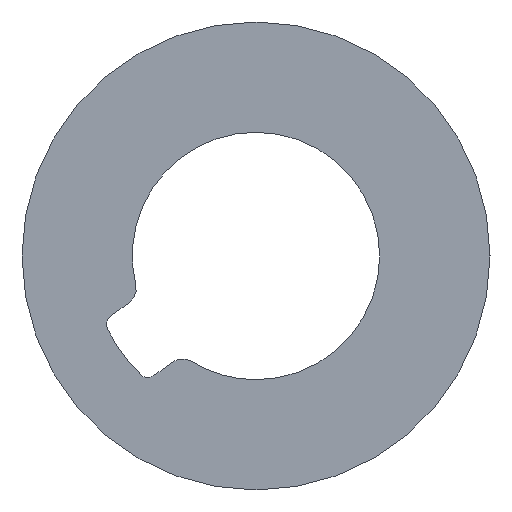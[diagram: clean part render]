
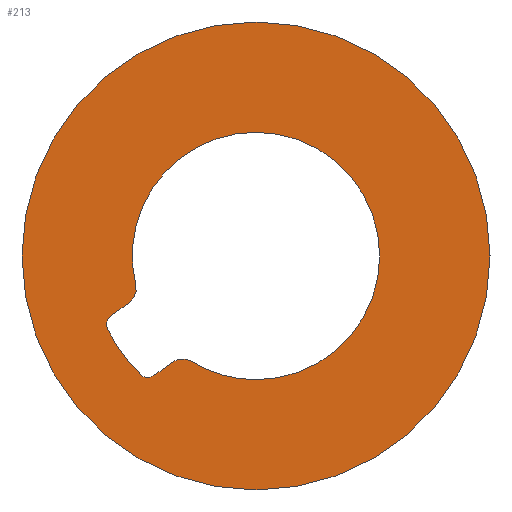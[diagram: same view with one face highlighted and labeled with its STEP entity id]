
A CAD part, left-side view. The second image highlights one B-rep face of the part: STEP entity #213.
In plain terms, the highlighted planar face has unit normal (-1, 0, 0).
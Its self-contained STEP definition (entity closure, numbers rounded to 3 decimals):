
#3 = ORIENTED_EDGE ( 'NONE', *, *, #289, .T. ) ;
#6 = ORIENTED_EDGE ( 'NONE', *, *, #268, .F. ) ;
#7 = ORIENTED_EDGE ( 'NONE', *, *, #288, .F. ) ;
#8 = ORIENTED_EDGE ( 'NONE', *, *, #272, .T. ) ;
#9 = ORIENTED_EDGE ( 'NONE', *, *, #275, .T. ) ;
#10 = ORIENTED_EDGE ( 'NONE', *, *, #261, .T. ) ;
#11 = ORIENTED_EDGE ( 'NONE', *, *, #279, .T. ) ;
#12 = ORIENTED_EDGE ( 'NONE', *, *, #291, .T. ) ;
#13 = ORIENTED_EDGE ( 'NONE', *, *, #290, .T. ) ;
#19 = ORIENTED_EDGE ( 'NONE', *, *, #262, .T. ) ;
#20 = ORIENTED_EDGE ( 'NONE', *, *, #293, .T. ) ;
#21 = ORIENTED_EDGE ( 'NONE', *, *, #292, .T. ) ;
#24 = ORIENTED_EDGE ( 'NONE', *, *, #294, .T. ) ;
#37 = CIRCLE ( 'NONE', #222, 0.3 ) ;
#39 = CIRCLE ( 'NONE', #223, 4.95 ) ;
#40 = CIRCLE ( 'NONE', #227, 0.3 ) ;
#45 = VECTOR ( 'NONE', #476, 1000. ) ;
#46 = CIRCLE ( 'NONE', #231, 0.5 ) ;
#47 = LINE ( 'NONE', #483, #45 ) ;
#49 = VECTOR ( 'NONE', #477, 1000. ) ;
#50 = CIRCLE ( 'NONE', #224, 7. ) ;
#51 = LINE ( 'NONE', #521, #49 ) ;
#69 = CIRCLE ( 'NONE', #233, 3.7 ) ;
#74 = CIRCLE ( 'NONE', #235, 3.7 ) ;
#80 = CIRCLE ( 'NONE', #237, 3.7 ) ;
#88 = CIRCLE ( 'NONE', #239, 7. ) ;
#100 = CIRCLE ( 'NONE', #242, 0.3 ) ;
#103 = CIRCLE ( 'NONE', #243, 0.5 ) ;
#118 = FACE_BOUND ( 'NONE', #146, .T. ) ;
#119 = FACE_OUTER_BOUND ( 'NONE', #147, .T. ) ;
#146 = EDGE_LOOP ( 'NONE', ( #3, #10, #9, #8, #11, #13, #12, #21, #19, #20, #24 ) ) ;
#147 = EDGE_LOOP ( 'NONE', ( #7, #6 ) ) ;
#213 = ADVANCED_FACE ( 'NONE', ( #119, #118 ), #394, .F. ) ;
#222 = AXIS2_PLACEMENT_3D ( 'NONE', #523, #452, #453 ) ;
#223 = AXIS2_PLACEMENT_3D ( 'NONE', #516, #517, #522 ) ;
#224 = AXIS2_PLACEMENT_3D ( 'NONE', #518, #507, #519 ) ;
#227 = AXIS2_PLACEMENT_3D ( 'NONE', #488, #489, #515 ) ;
#231 = AXIS2_PLACEMENT_3D ( 'NONE', #520, #474, #467 ) ;
#233 = AXIS2_PLACEMENT_3D ( 'NONE', #317, #316, #315 ) ;
#235 = AXIS2_PLACEMENT_3D ( 'NONE', #332, #331, #330 ) ;
#237 = AXIS2_PLACEMENT_3D ( 'NONE', #342, #341, #340 ) ;
#239 = AXIS2_PLACEMENT_3D ( 'NONE', #354, #353, #352 ) ;
#242 = AXIS2_PLACEMENT_3D ( 'NONE', #372, #370, #368 ) ;
#243 = AXIS2_PLACEMENT_3D ( 'NONE', #378, #376, #374 ) ;
#246 = AXIS2_PLACEMENT_3D ( 'NONE', #392, #391, #390 ) ;
#261 = EDGE_CURVE ( 'NONE', #449, #311, #103, .T. ) ;
#262 = EDGE_CURVE ( 'NONE', #393, #362, #100, .T. ) ;
#268 = EDGE_CURVE ( 'NONE', #448, #447, #88, .T. ) ;
#272 = EDGE_CURVE ( 'NONE', #375, #351, #80, .T. ) ;
#275 = EDGE_CURVE ( 'NONE', #311, #375, #74, .T. ) ;
#279 = EDGE_CURVE ( 'NONE', #351, #371, #69, .T. ) ;
#288 = EDGE_CURVE ( 'NONE', #447, #448, #50, .T. ) ;
#289 = EDGE_CURVE ( 'NONE', #441, #449, #51, .T. ) ;
#290 = EDGE_CURVE ( 'NONE', #371, #369, #46, .T. ) ;
#291 = EDGE_CURVE ( 'NONE', #369, #444, #47, .T. ) ;
#292 = EDGE_CURVE ( 'NONE', #444, #393, #40, .T. ) ;
#293 = EDGE_CURVE ( 'NONE', #362, #300, #39, .T. ) ;
#294 = EDGE_CURVE ( 'NONE', #300, #441, #37, .T. ) ;
#300 = VERTEX_POINT ( 'NONE', #509 ) ;
#311 = VERTEX_POINT ( 'NONE', #508 ) ;
#315 = DIRECTION ( 'NONE',  ( 0., 0., -1. ) ) ;
#316 = DIRECTION ( 'NONE',  ( 1., 0., 0. ) ) ;
#317 = CARTESIAN_POINT ( 'NONE',  ( -335.5, 0., 0. ) ) ;
#330 = DIRECTION ( 'NONE',  ( 0., 0., -1. ) ) ;
#331 = DIRECTION ( 'NONE',  ( 1., 0., 0. ) ) ;
#332 = CARTESIAN_POINT ( 'NONE',  ( -335.5, 0., 0. ) ) ;
#340 = DIRECTION ( 'NONE',  ( 0., 0., -1. ) ) ;
#341 = DIRECTION ( 'NONE',  ( 1., 0., 0. ) ) ;
#342 = CARTESIAN_POINT ( 'NONE',  ( -335.5, 0., 0. ) ) ;
#351 = VERTEX_POINT ( 'NONE', #503 ) ;
#352 = DIRECTION ( 'NONE',  ( 0., 0., -1. ) ) ;
#353 = DIRECTION ( 'NONE',  ( 1., 0., 0. ) ) ;
#354 = CARTESIAN_POINT ( 'NONE',  ( -335.5, 0., 0. ) ) ;
#362 = VERTEX_POINT ( 'NONE', #502 ) ;
#368 = DIRECTION ( 'NONE',  ( 0., 0., 1. ) ) ;
#369 = VERTEX_POINT ( 'NONE', #501 ) ;
#370 = DIRECTION ( 'NONE',  ( 1., 0., 0. ) ) ;
#371 = VERTEX_POINT ( 'NONE', #500 ) ;
#372 = CARTESIAN_POINT ( 'NONE',  ( -335.5, 3.236, -3.34 ) ) ;
#374 = DIRECTION ( 'NONE',  ( 0., 0., 1. ) ) ;
#375 = VERTEX_POINT ( 'NONE', #498 ) ;
#376 = DIRECTION ( 'NONE',  ( -1., 0., 0. ) ) ;
#378 = CARTESIAN_POINT ( 'NONE',  ( -335.5, 4.082, -0.988 ) ) ;
#390 = DIRECTION ( 'NONE',  ( 0., 0., -1. ) ) ;
#391 = DIRECTION ( 'NONE',  ( 1., 0., 0. ) ) ;
#392 = CARTESIAN_POINT ( 'NONE',  ( -335.5, 0., 0. ) ) ;
#393 = VERTEX_POINT ( 'NONE', #493 ) ;
#394 = PLANE ( 'NONE',  #246 ) ;
#441 = VERTEX_POINT ( 'NONE', #492 ) ;
#444 = VERTEX_POINT ( 'NONE', #487 ) ;
#447 = VERTEX_POINT ( 'NONE', #484 ) ;
#448 = VERTEX_POINT ( 'NONE', #482 ) ;
#449 = VERTEX_POINT ( 'NONE', #481 ) ;
#452 = DIRECTION ( 'NONE',  ( 1., 0., 0. ) ) ;
#453 = DIRECTION ( 'NONE',  ( 0., 0., -1. ) ) ;
#467 = DIRECTION ( 'NONE',  ( 0., 0., -1. ) ) ;
#474 = DIRECTION ( 'NONE',  ( -1., 0., 0. ) ) ;
#476 = DIRECTION ( 'NONE',  ( 0., 0.809, -0.588 ) ) ;
#477 = DIRECTION ( 'NONE',  ( 0., -0.809, 0.588 ) ) ;
#481 = CARTESIAN_POINT ( 'NONE',  ( -335.5, 3.788, -1.393 ) ) ;
#482 = CARTESIAN_POINT ( 'NONE',  ( -335.5, 0., -7. ) ) ;
#483 = CARTESIAN_POINT ( 'NONE',  ( -335.5, 3.059, -3.582 ) ) ;
#484 = CARTESIAN_POINT ( 'NONE',  ( -335.5, 0., 7. ) ) ;
#487 = CARTESIAN_POINT ( 'NONE',  ( -335.5, 3.059, -3.582 ) ) ;
#488 = CARTESIAN_POINT ( 'NONE',  ( -335.5, 3.236, -3.34 ) ) ;
#489 = DIRECTION ( 'NONE',  ( 1., 0., 0. ) ) ;
#492 = CARTESIAN_POINT ( 'NONE',  ( -335.5, 4.352, -1.803 ) ) ;
#493 = CARTESIAN_POINT ( 'NONE',  ( -335.5, 3.236, -3.64 ) ) ;
#498 = CARTESIAN_POINT ( 'NONE',  ( -335.5, 0., 3.7 ) ) ;
#500 = CARTESIAN_POINT ( 'NONE',  ( -335.5, 1.939, -3.151 ) ) ;
#501 = CARTESIAN_POINT ( 'NONE',  ( -335.5, 2.495, -3.172 ) ) ;
#502 = CARTESIAN_POINT ( 'NONE',  ( -335.5, 3.444, -3.555 ) ) ;
#503 = CARTESIAN_POINT ( 'NONE',  ( -335.5, 0., -3.7 ) ) ;
#507 = DIRECTION ( 'NONE',  ( 1., 0., 0. ) ) ;
#508 = CARTESIAN_POINT ( 'NONE',  ( -335.5, 3.596, -0.87 ) ) ;
#509 = CARTESIAN_POINT ( 'NONE',  ( -335.5, 4.445, -2.177 ) ) ;
#515 = DIRECTION ( 'NONE',  ( 0., 0., 1. ) ) ;
#516 = CARTESIAN_POINT ( 'NONE',  ( -335.5, 0., 0. ) ) ;
#517 = DIRECTION ( 'NONE',  ( 1., 0., 0. ) ) ;
#518 = CARTESIAN_POINT ( 'NONE',  ( -335.5, 0., 0. ) ) ;
#519 = DIRECTION ( 'NONE',  ( 0., 0., -1. ) ) ;
#520 = CARTESIAN_POINT ( 'NONE',  ( -335.5, 2.201, -3.577 ) ) ;
#521 = CARTESIAN_POINT ( 'NONE',  ( -335.5, 3.788, -1.393 ) ) ;
#522 = DIRECTION ( 'NONE',  ( 0., 0., 1. ) ) ;
#523 = CARTESIAN_POINT ( 'NONE',  ( -335.5, 4.176, -2.045 ) ) ;
